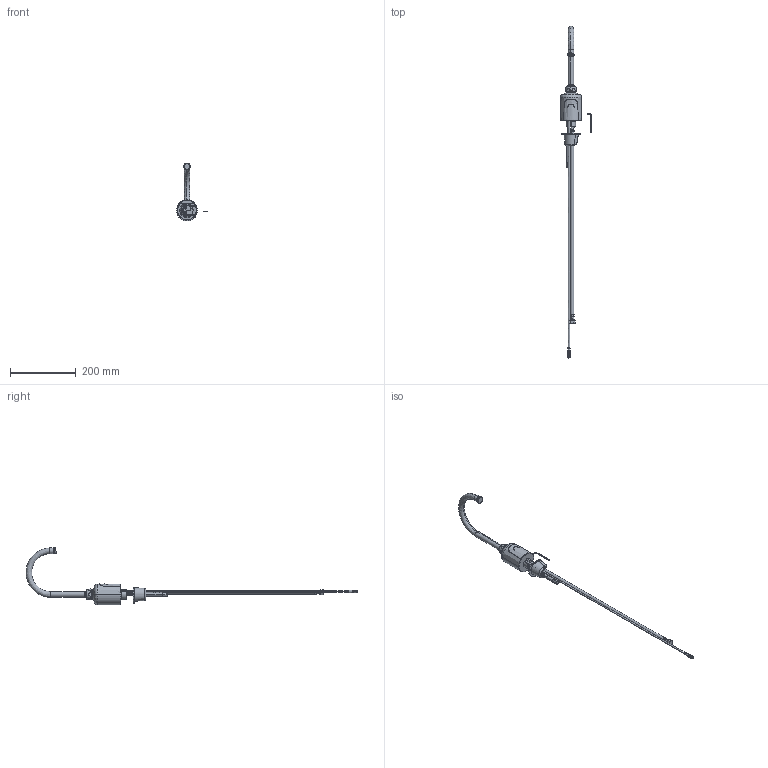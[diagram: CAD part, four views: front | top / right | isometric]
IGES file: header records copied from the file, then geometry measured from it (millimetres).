
Start section:  PTC IGES file: 117-427-AB-1T_REV090825.igs
Global section: file name: 117-427-AB-1T_REV090825.igs; native system: Creo Parametric by PTC Inc.; preprocessor: 2024253; author: rodjo; organization: Unknown; date: 20250908.102230; units: inch
Bounding box: 94.26 x 1013.45 x 176.19 mm (x, y, z)
Surface area: 100322.2 mm2 (no closed solid volume)
Topology: 0 solids, 0 shells, 490 faces, 2445 edges, 2445 vertices
Faces by surface type: revolution 340, bspline 150
